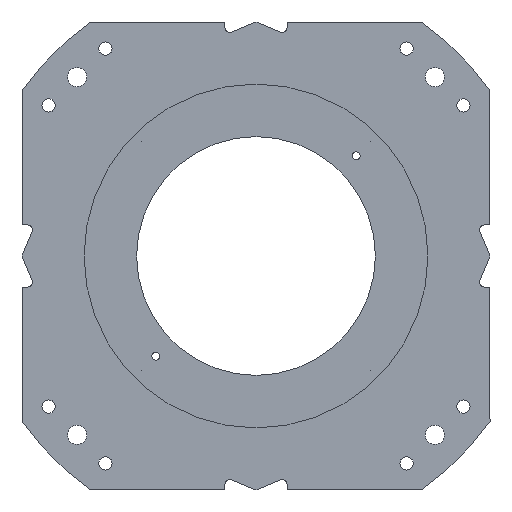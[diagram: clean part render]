
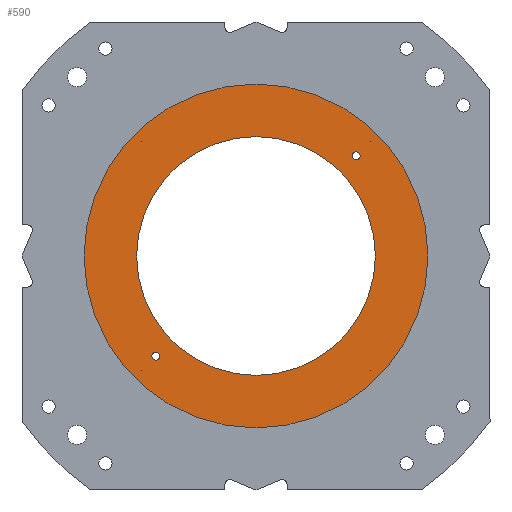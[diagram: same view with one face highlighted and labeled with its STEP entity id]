
A CAD part, front view. The second image highlights one B-rep face of the part: STEP entity #590.
In plain terms, the highlighted planar face has unit normal (0, -1, 0).
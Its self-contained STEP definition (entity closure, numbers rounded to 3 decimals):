
#3 = CARTESIAN_POINT ( 'NONE',  ( 0., 263., 0. ) ) ;
#30 = FACE_BOUND ( 'NONE', #7504, .T. ) ;
#417 = CARTESIAN_POINT ( 'NONE',  ( 105., 263., 101. ) ) ;
#489 = AXIS2_PLACEMENT_3D ( 'NONE', #7344, #627, #776 ) ;
#590 = ADVANCED_FACE ( 'NONE', ( #5603, #2470, #30, #3087 ), #2434, .T. ) ;
#597 = CARTESIAN_POINT ( 'NONE',  ( 105., 263., 105. ) ) ;
#627 = DIRECTION ( 'NONE',  ( 0., -1., 0. ) ) ;
#689 = DIRECTION ( 'NONE',  ( 0., -1., 0. ) ) ;
#728 = CARTESIAN_POINT ( 'NONE',  ( 105., 263., 105. ) ) ;
#737 = CIRCLE ( 'NONE', #489, 4. ) ;
#776 = DIRECTION ( 'NONE',  ( 0., 0., -1. ) ) ;
#790 = VERTEX_POINT ( 'NONE', #2115 ) ;
#896 = ORIENTED_EDGE ( 'NONE', *, *, #7320, .F. ) ;
#1034 = ORIENTED_EDGE ( 'NONE', *, *, #3919, .F. ) ;
#1096 = ORIENTED_EDGE ( 'NONE', *, *, #1573, .F. ) ;
#1110 = EDGE_CURVE ( 'NONE', #790, #7599, #737, .T. ) ;
#1188 = CARTESIAN_POINT ( 'NONE',  ( 0., 263., -125. ) ) ;
#1366 = CARTESIAN_POINT ( 'NONE',  ( 0., 263., 125. ) ) ;
#1551 = CARTESIAN_POINT ( 'NONE',  ( -105., 263., -105. ) ) ;
#1552 = ORIENTED_EDGE ( 'NONE', *, *, #6747, .F. ) ;
#1573 = EDGE_CURVE ( 'NONE', #5327, #3843, #3523, .T. ) ;
#1856 = DIRECTION ( 'NONE',  ( 0., -1., 0. ) ) ;
#2060 = CIRCLE ( 'NONE', #4841, 180. ) ;
#2115 = CARTESIAN_POINT ( 'NONE',  ( -105., 263., -109. ) ) ;
#2134 = DIRECTION ( 'NONE',  ( 0., -1., 0. ) ) ;
#2250 = DIRECTION ( 'NONE',  ( 0., 0., -1. ) ) ;
#2344 = EDGE_LOOP ( 'NONE', ( #1096, #6465 ) ) ;
#2352 = AXIS2_PLACEMENT_3D ( 'NONE', #6306, #4373, #7476 ) ;
#2409 = DIRECTION ( 'NONE',  ( 0., 1., 0. ) ) ;
#2434 = PLANE ( 'NONE',  #5768 ) ;
#2470 = FACE_BOUND ( 'NONE', #2344, .T. ) ;
#2614 = CIRCLE ( 'NONE', #4739, 4. ) ;
#2834 = VERTEX_POINT ( 'NONE', #5814 ) ;
#2881 = ORIENTED_EDGE ( 'NONE', *, *, #5249, .F. ) ;
#2930 = EDGE_LOOP ( 'NONE', ( #1034, #4047 ) ) ;
#2979 = AXIS2_PLACEMENT_3D ( 'NONE', #728, #689, #3722 ) ;
#3087 = FACE_OUTER_BOUND ( 'NONE', #5504, .T. ) ;
#3523 = CIRCLE ( 'NONE', #6380, 4. ) ;
#3615 = CIRCLE ( 'NONE', #2352, 125. ) ;
#3635 = CIRCLE ( 'NONE', #3871, 125. ) ;
#3659 = CARTESIAN_POINT ( 'NONE',  ( 0., 263., 180. ) ) ;
#3670 = DIRECTION ( 'NONE',  ( 0., 0., -1. ) ) ;
#3722 = DIRECTION ( 'NONE',  ( 0., 0., -1. ) ) ;
#3751 = VERTEX_POINT ( 'NONE', #3659 ) ;
#3843 = VERTEX_POINT ( 'NONE', #417 ) ;
#3871 = AXIS2_PLACEMENT_3D ( 'NONE', #7484, #2134, #2250 ) ;
#3919 = EDGE_CURVE ( 'NONE', #7599, #790, #2614, .T. ) ;
#4047 = ORIENTED_EDGE ( 'NONE', *, *, #1110, .F. ) ;
#4235 = CIRCLE ( 'NONE', #2979, 4. ) ;
#4280 = ORIENTED_EDGE ( 'NONE', *, *, #5337, .F. ) ;
#4373 = DIRECTION ( 'NONE',  ( 0., -1., 0. ) ) ;
#4636 = VERTEX_POINT ( 'NONE', #1366 ) ;
#4739 = AXIS2_PLACEMENT_3D ( 'NONE', #1551, #6253, #6324 ) ;
#4795 = DIRECTION ( 'NONE',  ( 0., 0., 1. ) ) ;
#4841 = AXIS2_PLACEMENT_3D ( 'NONE', #3, #2409, #4795 ) ;
#5057 = DIRECTION ( 'NONE',  ( 0., 0., -1. ) ) ;
#5249 = EDGE_CURVE ( 'NONE', #3751, #2834, #6850, .T. ) ;
#5327 = VERTEX_POINT ( 'NONE', #7525 ) ;
#5330 = CARTESIAN_POINT ( 'NONE',  ( -105., 263., -101. ) ) ;
#5337 = EDGE_CURVE ( 'NONE', #7591, #4636, #3635, .T. ) ;
#5463 = DIRECTION ( 'NONE',  ( 0., -1., 0. ) ) ;
#5504 = EDGE_LOOP ( 'NONE', ( #2881, #896 ) ) ;
#5603 = FACE_BOUND ( 'NONE', #2930, .T. ) ;
#5745 = AXIS2_PLACEMENT_3D ( 'NONE', #6132, #7295, #7371 ) ;
#5768 = AXIS2_PLACEMENT_3D ( 'NONE', #7221, #5463, #5057 ) ;
#5807 = EDGE_CURVE ( 'NONE', #3843, #5327, #4235, .T. ) ;
#5814 = CARTESIAN_POINT ( 'NONE',  ( 0., 263., -180. ) ) ;
#6132 = CARTESIAN_POINT ( 'NONE',  ( 0., 263., 0. ) ) ;
#6253 = DIRECTION ( 'NONE',  ( 0., -1., 0. ) ) ;
#6306 = CARTESIAN_POINT ( 'NONE',  ( 0., 263., 0. ) ) ;
#6324 = DIRECTION ( 'NONE',  ( 0., 0., -1. ) ) ;
#6380 = AXIS2_PLACEMENT_3D ( 'NONE', #597, #1856, #3670 ) ;
#6465 = ORIENTED_EDGE ( 'NONE', *, *, #5807, .F. ) ;
#6747 = EDGE_CURVE ( 'NONE', #4636, #7591, #3615, .T. ) ;
#6850 = CIRCLE ( 'NONE', #5745, 180. ) ;
#7221 = CARTESIAN_POINT ( 'NONE',  ( 0., 263., 0. ) ) ;
#7295 = DIRECTION ( 'NONE',  ( 0., 1., 0. ) ) ;
#7320 = EDGE_CURVE ( 'NONE', #2834, #3751, #2060, .T. ) ;
#7344 = CARTESIAN_POINT ( 'NONE',  ( -105., 263., -105. ) ) ;
#7371 = DIRECTION ( 'NONE',  ( 0., 0., 1. ) ) ;
#7476 = DIRECTION ( 'NONE',  ( 0., 0., -1. ) ) ;
#7484 = CARTESIAN_POINT ( 'NONE',  ( 0., 263., 0. ) ) ;
#7504 = EDGE_LOOP ( 'NONE', ( #1552, #4280 ) ) ;
#7525 = CARTESIAN_POINT ( 'NONE',  ( 105., 263., 109. ) ) ;
#7591 = VERTEX_POINT ( 'NONE', #1188 ) ;
#7599 = VERTEX_POINT ( 'NONE', #5330 ) ;
